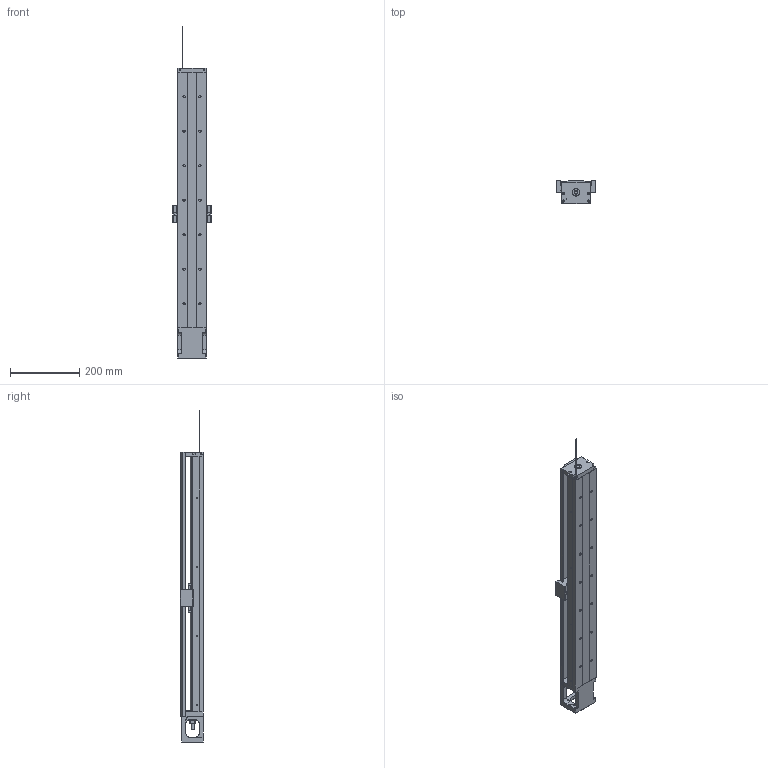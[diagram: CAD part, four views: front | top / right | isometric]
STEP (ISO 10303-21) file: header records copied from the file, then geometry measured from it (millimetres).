
FILE_DESCRIPTION(/* description */ (''),/* implementation_level */ '2;1');
FILE_NAME(/* name */ '46S-740C.stp',/* time_stamp */ '2016-12-20T14:09:49+08:00',/* author */ (''),/* organization */ (''),/* preprocessor_version */ 'ST-DEVELOPER v11',/* originating_system */ 'SIEMENS UGS NX 6.0',/* authorisation */ '');
FILE_SCHEMA (('AUTOMOTIVE_DESIGN { 1 0 10303 214 1 1 1 1 }'));
Length unit declared in the file: millimetre
Products named in the file (1): model4
Bounding box: 112 x 68 x 961.69 mm (x, y, z)
Volume: 2061962.1 mm3; surface area: 539849.8 mm2
Topology: 7 solids, 18 shells, 722 faces, 1900 edges, 1257 vertices
Faces by surface type: plane 342, cylinder 264, cone 58, bspline 50, torus 8
Full cylindrical faces by diameter (mm): 2 x2, 2.11 x2, 2.15 x8, 2.42 x6, 2.5 x4, 3 x4, 3.2 x4, 3.3 x12, 3.4 x8, 4 x6, 4.2 x4, 4.5 x8, 5 x8, 6 x8, 6.35 x2, 6.6 x14, 6.7 x2, 8 x1, 8.7 x4, 9.6 x1, 10 x3, 11 x14, 12 x1, 14.95 x2, 15 x1, 16 x2, 22 x3, 27.5 x1, 44 x1, 50 x1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
Entity records: 32495 total; most frequent: CARTESIAN_POINT 13293, ORIENTED_EDGE 3266, DIRECTION 3172, EDGE_CURVE 1633, AXIS2_PLACEMENT_3D 1180, VERTEX_POINT 1178, EDGE_LOOP 1025, LINE 812
